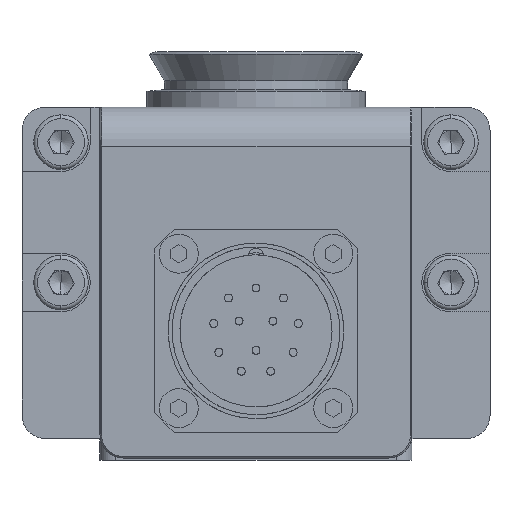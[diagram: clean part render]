
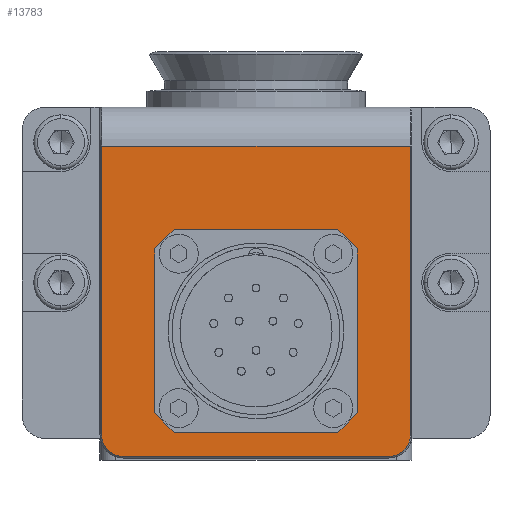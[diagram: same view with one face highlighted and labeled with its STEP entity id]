
A CAD part, front view. The second image highlights one B-rep face of the part: STEP entity #13783.
In plain terms, the highlighted planar face has unit normal (0, -1, 0).
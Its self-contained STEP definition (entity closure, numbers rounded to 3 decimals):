
#221 = EDGE_CURVE ( 'NONE', #4082, #34422, #24037, .T. ) ;
#473 = VERTEX_POINT ( 'NONE', #527 ) ;
#527 = CARTESIAN_POINT ( 'NONE',  ( -7.352, -24.643, -25.7 ) ) ;
#776 = EDGE_CURVE ( 'NONE', #15456, #8181, #27904, .T. ) ;
#1062 = ORIENTED_EDGE ( 'NONE', *, *, #23960, .T. ) ;
#3422 = DIRECTION ( 'NONE',  ( -1., 0., 0. ) ) ;
#4082 = VERTEX_POINT ( 'NONE', #35715 ) ;
#4200 = EDGE_CURVE ( 'NONE', #39815, #18261, #39953, .T. ) ;
#4346 = CARTESIAN_POINT ( 'NONE',  ( -34.852, -24.643, 3.4 ) ) ;
#4580 = VECTOR ( 'NONE', #30719, 1000. ) ;
#4866 = CARTESIAN_POINT ( 'NONE',  ( -44.152, -24.643, 14.1 ) ) ;
#5024 = DIRECTION ( 'NONE',  ( 1., 0., 0. ) ) ;
#5202 = EDGE_CURVE ( 'NONE', #13149, #473, #16029, .T. ) ;
#5616 = ORIENTED_EDGE ( 'NONE', *, *, #4200, .T. ) ;
#5858 = CARTESIAN_POINT ( 'NONE',  ( -4.552, -24.643, -22.9 ) ) ;
#6023 = VERTEX_POINT ( 'NONE', #4346 ) ;
#7998 = CARTESIAN_POINT ( 'NONE',  ( -13.852, -24.643, 3.4 ) ) ;
#8062 = ORIENTED_EDGE ( 'NONE', *, *, #38952, .T. ) ;
#8162 = CARTESIAN_POINT ( 'NONE',  ( -37.352, -24.643, -20.1 ) ) ;
#8181 = VERTEX_POINT ( 'NONE', #4866 ) ;
#8247 = CARTESIAN_POINT ( 'NONE',  ( -37.352, -24.643, 0.9 ) ) ;
#8299 = ORIENTED_EDGE ( 'NONE', *, *, #36391, .T. ) ;
#8636 = EDGE_CURVE ( 'NONE', #11496, #6023, #10486, .T. ) ;
#8812 = ORIENTED_EDGE ( 'NONE', *, *, #21182, .T. ) ;
#8824 = CARTESIAN_POINT ( 'NONE',  ( -34.852, -24.643, -22.6 ) ) ;
#8979 = DIRECTION ( 'NONE',  ( 0., 0., 1. ) ) ;
#9001 = CARTESIAN_POINT ( 'NONE',  ( -4.552, -24.643, 14.1 ) ) ;
#9003 = CARTESIAN_POINT ( 'NONE',  ( -13.852, -24.643, 3.4 ) ) ;
#9026 = DIRECTION ( 'NONE',  ( 0., -1., 0. ) ) ;
#9075 = CARTESIAN_POINT ( 'NONE',  ( -41.352, -24.643, -22.9 ) ) ;
#9391 = VECTOR ( 'NONE', #5024, 1000. ) ;
#9645 = VECTOR ( 'NONE', #37121, 1000. ) ;
#9905 = VECTOR ( 'NONE', #31119, 1000. ) ;
#10101 = VERTEX_POINT ( 'NONE', #7998 ) ;
#10486 = LINE ( 'NONE', #8247, #27093 ) ;
#11189 = CARTESIAN_POINT ( 'NONE',  ( -24.352, -24.643, 3.4 ) ) ;
#11496 = VERTEX_POINT ( 'NONE', #37752 ) ;
#11497 = CARTESIAN_POINT ( 'NONE',  ( -11.352, -24.643, 0.9 ) ) ;
#12206 = CARTESIAN_POINT ( 'NONE',  ( -44.152, -24.643, 14.1 ) ) ;
#12296 = CARTESIAN_POINT ( 'NONE',  ( -41.352, -24.643, -25.7 ) ) ;
#12634 = CARTESIAN_POINT ( 'NONE',  ( -11.352, -24.643, -20.1 ) ) ;
#12729 = CARTESIAN_POINT ( 'NONE',  ( -4.552, -24.643, 14.1 ) ) ;
#12916 = LINE ( 'NONE', #21205, #4580 ) ;
#13149 = VERTEX_POINT ( 'NONE', #5858 ) ;
#13783 = ADVANCED_FACE ( 'NONE', ( #23272, #31550 ), #37276, .T. ) ;
#15086 = LINE ( 'NONE', #12634, #33605 ) ;
#15333 = CARTESIAN_POINT ( 'NONE',  ( -11.352, -24.643, -5.8 ) ) ;
#15456 = VERTEX_POINT ( 'NONE', #12729 ) ;
#15557 = ORIENTED_EDGE ( 'NONE', *, *, #5202, .F. ) ;
#15653 = VECTOR ( 'NONE', #16025, 1000. ) ;
#15788 = DIRECTION ( 'NONE',  ( -0.707, 0., -0.707 ) ) ;
#15862 = ORIENTED_EDGE ( 'NONE', *, *, #8636, .T. ) ;
#16025 = DIRECTION ( 'NONE',  ( 0., 0., 1. ) ) ;
#16029 = CIRCLE ( 'NONE', #23433, 2.8 ) ;
#16211 = CARTESIAN_POINT ( 'NONE',  ( -44.152, -24.643, -5.8 ) ) ;
#16646 = LINE ( 'NONE', #31559, #15653 ) ;
#17780 = EDGE_CURVE ( 'NONE', #10101, #27447, #34793, .T. ) ;
#18118 = EDGE_CURVE ( 'NONE', #6023, #10101, #34297, .T. ) ;
#18261 = VERTEX_POINT ( 'NONE', #8824 ) ;
#18402 = CARTESIAN_POINT ( 'NONE',  ( -24.352, -24.643, 14.1 ) ) ;
#18655 = DIRECTION ( 'NONE',  ( 0., -1., 0. ) ) ;
#19527 = DIRECTION ( 'NONE',  ( -1., 0., 0. ) ) ;
#19660 = VECTOR ( 'NONE', #19527, 1000. ) ;
#19845 = AXIS2_PLACEMENT_3D ( 'NONE', #12206, #18655, #40424 ) ;
#20706 = CARTESIAN_POINT ( 'NONE',  ( -11.352, -24.643, -20.1 ) ) ;
#21012 = LINE ( 'NONE', #16211, #28308 ) ;
#21182 = EDGE_CURVE ( 'NONE', #25323, #11496, #16646, .T. ) ;
#21205 = CARTESIAN_POINT ( 'NONE',  ( -24.352, -24.643, -25.7 ) ) ;
#21562 = ORIENTED_EDGE ( 'NONE', *, *, #27514, .F. ) ;
#21578 = CARTESIAN_POINT ( 'NONE',  ( -34.852, -24.643, -22.6 ) ) ;
#23272 = FACE_BOUND ( 'NONE', #38119, .T. ) ;
#23372 = VECTOR ( 'NONE', #24680, 1000. ) ;
#23433 = AXIS2_PLACEMENT_3D ( 'NONE', #24384, #23605, #26037 ) ;
#23471 = ORIENTED_EDGE ( 'NONE', *, *, #221, .T. ) ;
#23605 = DIRECTION ( 'NONE',  ( 0., 1., 0. ) ) ;
#23960 = EDGE_CURVE ( 'NONE', #18261, #25323, #31649, .T. ) ;
#24037 = CIRCLE ( 'NONE', #26710, 2.8 ) ;
#24384 = CARTESIAN_POINT ( 'NONE',  ( -7.352, -24.643, -22.9 ) ) ;
#24680 = DIRECTION ( 'NONE',  ( -0.707, 0., 0.707 ) ) ;
#24877 = EDGE_CURVE ( 'NONE', #27447, #36568, #33561, .T. ) ;
#24929 = ORIENTED_EDGE ( 'NONE', *, *, #28874, .T. ) ;
#25130 = ORIENTED_EDGE ( 'NONE', *, *, #18118, .T. ) ;
#25323 = VERTEX_POINT ( 'NONE', #8162 ) ;
#25944 = EDGE_LOOP ( 'NONE', ( #23471, #24929, #15557, #21562, #37035, #8299 ) ) ;
#26037 = DIRECTION ( 'NONE',  ( 0., 0., 1. ) ) ;
#26710 = AXIS2_PLACEMENT_3D ( 'NONE', #9075, #9026, #8979 ) ;
#27093 = VECTOR ( 'NONE', #36234, 1000. ) ;
#27361 = ORIENTED_EDGE ( 'NONE', *, *, #24877, .T. ) ;
#27447 = VERTEX_POINT ( 'NONE', #11497 ) ;
#27514 = EDGE_CURVE ( 'NONE', #15456, #13149, #27895, .T. ) ;
#27553 = CARTESIAN_POINT ( 'NONE',  ( -13.852, -24.643, -22.6 ) ) ;
#27895 = B_SPLINE_CURVE_WITH_KNOTS ( 'NONE', 1,
 ( #9001, #30845 ),
 .UNSPECIFIED., .F., .F.,
 ( 2, 2 ),
 ( 0., 1. ),
 .UNSPECIFIED. ) ;
#27904 = LINE ( 'NONE', #18402, #19660 ) ;
#28308 = VECTOR ( 'NONE', #34857, 1000. ) ;
#28874 = EDGE_CURVE ( 'NONE', #34422, #473, #12916, .T. ) ;
#30719 = DIRECTION ( 'NONE',  ( 1., 0., 0. ) ) ;
#30845 = CARTESIAN_POINT ( 'NONE',  ( -4.552, -24.643, -22.9 ) ) ;
#31119 = DIRECTION ( 'NONE',  ( 0.707, 0., -0.707 ) ) ;
#31550 = FACE_OUTER_BOUND ( 'NONE', #25944, .T. ) ;
#31559 = CARTESIAN_POINT ( 'NONE',  ( -37.352, -24.643, -5.8 ) ) ;
#31649 = LINE ( 'NONE', #21578, #23372 ) ;
#31665 = VECTOR ( 'NONE', #3422, 1000. ) ;
#33561 = LINE ( 'NONE', #15333, #9645 ) ;
#33605 = VECTOR ( 'NONE', #15788, 1000. ) ;
#34297 = LINE ( 'NONE', #11189, #9391 ) ;
#34422 = VERTEX_POINT ( 'NONE', #12296 ) ;
#34793 = LINE ( 'NONE', #9003, #9905 ) ;
#34857 = DIRECTION ( 'NONE',  ( 0., 0., -1. ) ) ;
#35168 = ORIENTED_EDGE ( 'NONE', *, *, #17780, .T. ) ;
#35715 = CARTESIAN_POINT ( 'NONE',  ( -44.152, -24.643, -22.9 ) ) ;
#36234 = DIRECTION ( 'NONE',  ( 0.707, 0., 0.707 ) ) ;
#36391 = EDGE_CURVE ( 'NONE', #8181, #4082, #21012, .T. ) ;
#36568 = VERTEX_POINT ( 'NONE', #20706 ) ;
#37035 = ORIENTED_EDGE ( 'NONE', *, *, #776, .T. ) ;
#37121 = DIRECTION ( 'NONE',  ( 0., 0., -1. ) ) ;
#37276 = PLANE ( 'NONE',  #19845 ) ;
#37752 = CARTESIAN_POINT ( 'NONE',  ( -37.352, -24.643, 0.9 ) ) ;
#38119 = EDGE_LOOP ( 'NONE', ( #8812, #15862, #25130, #35168, #27361, #8062, #5616, #1062 ) ) ;
#38952 = EDGE_CURVE ( 'NONE', #36568, #39815, #15086, .T. ) ;
#39313 = CARTESIAN_POINT ( 'NONE',  ( -24.352, -24.643, -22.6 ) ) ;
#39815 = VERTEX_POINT ( 'NONE', #27553 ) ;
#39953 = LINE ( 'NONE', #39313, #31665 ) ;
#40424 = DIRECTION ( 'NONE',  ( 0., 0., -1. ) ) ;
